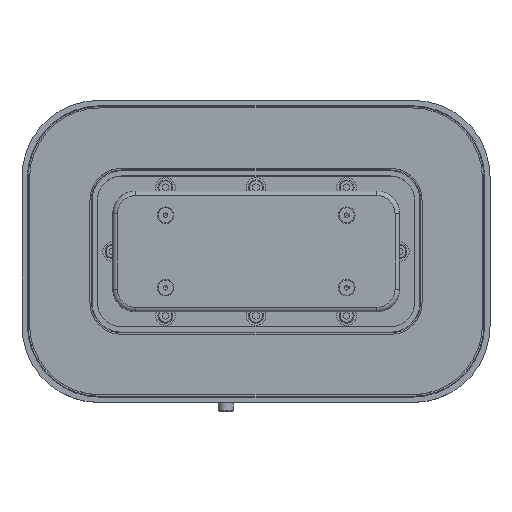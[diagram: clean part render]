
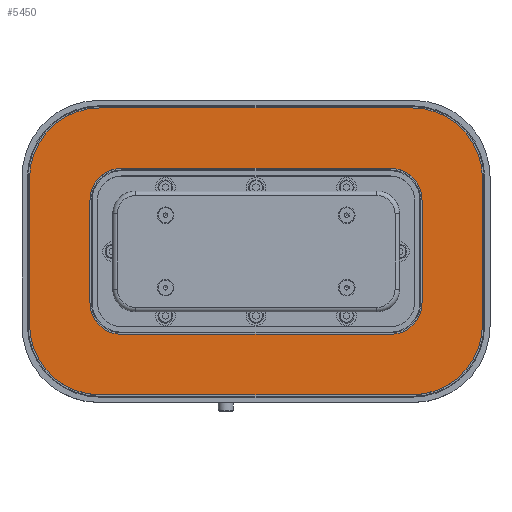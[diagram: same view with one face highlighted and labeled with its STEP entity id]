
A CAD part, top view. The second image highlights one B-rep face of the part: STEP entity #5450.
In plain terms, the highlighted planar face has unit normal (0, 0, 1).
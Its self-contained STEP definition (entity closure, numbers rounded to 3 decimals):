
#5450=ADVANCED_FACE('',(#10638,#10639),#10640,.T.);
#10638=FACE_OUTER_BOUND('',#16035,.T.);
#10639=FACE_BOUND('',#16036,.T.);
#10640=PLANE('',#16037);
#16035=EDGE_LOOP('',(#25600,#25601,#25602,#25603,#25604,#25605,#25606,#25607));
#16036=EDGE_LOOP('',(#25608,#25609,#25610,#25611,#25612,#25613,#25614,#25615));
#16037=AXIS2_PLACEMENT_3D('',#25616,#25617,#25618);
#25600=ORIENTED_EDGE('',*,*,#32235,.T.);
#25601=ORIENTED_EDGE('',*,*,#32230,.T.);
#25602=ORIENTED_EDGE('',*,*,#32236,.T.);
#25603=ORIENTED_EDGE('',*,*,#32220,.T.);
#25604=ORIENTED_EDGE('',*,*,#32237,.T.);
#25605=ORIENTED_EDGE('',*,*,#32225,.T.);
#25606=ORIENTED_EDGE('',*,*,#32238,.T.);
#25607=ORIENTED_EDGE('',*,*,#32239,.T.);
#25608=ORIENTED_EDGE('',*,*,#32240,.T.);
#25609=ORIENTED_EDGE('',*,*,#32241,.T.);
#25610=ORIENTED_EDGE('',*,*,#32242,.T.);
#25611=ORIENTED_EDGE('',*,*,#32243,.T.);
#25612=ORIENTED_EDGE('',*,*,#32244,.T.);
#25613=ORIENTED_EDGE('',*,*,#32245,.T.);
#25614=ORIENTED_EDGE('',*,*,#32246,.T.);
#25615=ORIENTED_EDGE('',*,*,#32247,.T.);
#25616=CARTESIAN_POINT('',(-196.164,-306.171,132.0));
#25617=DIRECTION('',(0.0,0.0,1.0));
#25618=DIRECTION('',(1.0,0.0,0.0));
#32220=EDGE_CURVE('',#37996,#37997,#37998,.T.);
#32225=EDGE_CURVE('',#38005,#38006,#38007,.T.);
#32230=EDGE_CURVE('',#38014,#38015,#38016,.T.);
#32235=EDGE_CURVE('',#38023,#38014,#38024,.T.);
#32236=EDGE_CURVE('',#38015,#37996,#38025,.T.);
#32237=EDGE_CURVE('',#37997,#38005,#38026,.T.);
#32238=EDGE_CURVE('',#38006,#38027,#38028,.T.);
#32239=EDGE_CURVE('',#38027,#38023,#38029,.T.);
#32240=EDGE_CURVE('',#38030,#38031,#38032,.T.);
#32241=EDGE_CURVE('',#38031,#38033,#38034,.F.);
#32242=EDGE_CURVE('',#38033,#38035,#38036,.T.);
#32243=EDGE_CURVE('',#38035,#38037,#38038,.F.);
#32244=EDGE_CURVE('',#38037,#38039,#38040,.T.);
#32245=EDGE_CURVE('',#38039,#38041,#38042,.F.);
#32246=EDGE_CURVE('',#38041,#38043,#38044,.T.);
#32247=EDGE_CURVE('',#38043,#38030,#38045,.F.);
#37996=VERTEX_POINT('',#46189);
#37997=VERTEX_POINT('',#46190);
#37998=CIRCLE('',#46191,46.5);
#38005=VERTEX_POINT('',#46200);
#38006=VERTEX_POINT('',#46201);
#38007=CIRCLE('',#46202,46.5);
#38014=VERTEX_POINT('',#46211);
#38015=VERTEX_POINT('',#46212);
#38016=CIRCLE('',#46213,46.5);
#38023=VERTEX_POINT('',#46222);
#38024=LINE('',#46223,#46224);
#38025=LINE('',#46225,#46226);
#38026=LINE('',#46227,#46228);
#38027=VERTEX_POINT('',#46229);
#38028=LINE('',#46230,#46231);
#38029=CIRCLE('',#46232,46.5);
#38030=VERTEX_POINT('',#46233);
#38031=VERTEX_POINT('',#46234);
#38032=LINE('',#46235,#46236);
#38033=VERTEX_POINT('',#46237);
#38034=CIRCLE('',#46238,21.0);
#38035=VERTEX_POINT('',#46239);
#38036=LINE('',#46240,#46241);
#38037=VERTEX_POINT('',#46242);
#38038=CIRCLE('',#46243,21.0);
#38039=VERTEX_POINT('',#46244);
#38040=LINE('',#46245,#46246);
#38041=VERTEX_POINT('',#46247);
#38042=CIRCLE('',#46248,21.0);
#38043=VERTEX_POINT('',#46249);
#38044=LINE('',#46250,#46251);
#38045=CIRCLE('',#46252,21.0);
#46189=CARTESIAN_POINT('',(57.336,-306.171,132.0));
#46190=CARTESIAN_POINT('',(103.836,-259.671,132.0));
#46191=AXIS2_PLACEMENT_3D('',#52237,#52238,#52239);
#46200=CARTESIAN_POINT('',(103.836,-162.671,132.0));
#46201=CARTESIAN_POINT('',(57.336,-116.171,132.0));
#46202=AXIS2_PLACEMENT_3D('',#52245,#52246,#52247);
#46211=CARTESIAN_POINT('',(-196.164,-259.671,132.0));
#46212=CARTESIAN_POINT('',(-149.664,-306.171,132.0));
#46213=AXIS2_PLACEMENT_3D('',#52253,#52254,#52255);
#46222=CARTESIAN_POINT('',(-196.164,-162.671,132.0));
#46223=CARTESIAN_POINT('',(-196.164,-116.171,132.0));
#46224=VECTOR('',#52261,1.0);
#46225=CARTESIAN_POINT('',(-196.164,-306.171,132.0));
#46226=VECTOR('',#52262,1.0);
#46227=CARTESIAN_POINT('',(103.836,-306.171,132.0));
#46228=VECTOR('',#52263,1.0);
#46229=CARTESIAN_POINT('',(-149.664,-116.171,132.0));
#46230=CARTESIAN_POINT('',(103.836,-116.171,132.0));
#46231=VECTOR('',#52264,1.0);
#46232=AXIS2_PLACEMENT_3D('',#52265,#52266,#52267);
#46233=CARTESIAN_POINT('',(63.836,-177.171,132.0));
#46234=CARTESIAN_POINT('',(63.836,-245.171,132.0));
#46235=CARTESIAN_POINT('',(63.836,-156.171,132.0));
#46236=VECTOR('',#52268,1.0);
#46237=CARTESIAN_POINT('',(42.836,-266.171,132.0));
#46238=AXIS2_PLACEMENT_3D('',#52269,#52270,#52271);
#46239=CARTESIAN_POINT('',(-135.164,-266.171,132.0));
#46240=CARTESIAN_POINT('',(63.836,-266.171,132.0));
#46241=VECTOR('',#52272,1.0);
#46242=CARTESIAN_POINT('',(-156.164,-245.171,132.0));
#46243=AXIS2_PLACEMENT_3D('',#52273,#52274,#52275);
#46244=CARTESIAN_POINT('',(-156.164,-177.171,132.0));
#46245=CARTESIAN_POINT('',(-156.164,-266.171,132.0));
#46246=VECTOR('',#52276,1.0);
#46247=CARTESIAN_POINT('',(-135.164,-156.171,132.0));
#46248=AXIS2_PLACEMENT_3D('',#52277,#52278,#52279);
#46249=CARTESIAN_POINT('',(42.836,-156.171,132.0));
#46250=CARTESIAN_POINT('',(-156.164,-156.171,132.0));
#46251=VECTOR('',#52280,1.0);
#46252=AXIS2_PLACEMENT_3D('',#52281,#52282,#52283);
#52237=CARTESIAN_POINT('',(57.336,-259.671,132.0));
#52238=DIRECTION('',(0.0,0.0,1.0));
#52239=DIRECTION('',(1.0,0.0,0.0));
#52245=CARTESIAN_POINT('',(57.336,-162.671,132.0));
#52246=DIRECTION('',(0.0,0.0,1.0));
#52247=DIRECTION('',(1.0,0.0,0.0));
#52253=CARTESIAN_POINT('',(-149.664,-259.671,132.0));
#52254=DIRECTION('',(0.0,0.0,1.0));
#52255=DIRECTION('',(1.0,0.0,0.0));
#52261=DIRECTION('',(0.0,-1.0,0.0));
#52262=DIRECTION('',(1.0,0.0,0.0));
#52263=DIRECTION('',(0.0,1.0,0.0));
#52264=DIRECTION('',(-1.0,0.0,0.0));
#52265=CARTESIAN_POINT('',(-149.664,-162.671,132.0));
#52266=DIRECTION('',(0.0,0.0,1.0));
#52267=DIRECTION('',(1.0,0.0,0.0));
#52268=DIRECTION('',(0.0,-1.0,0.0));
#52269=CARTESIAN_POINT('',(42.836,-245.171,132.0));
#52270=DIRECTION('',(0.0,0.0,1.0));
#52271=DIRECTION('',(1.0,0.0,0.0));
#52272=DIRECTION('',(-1.0,0.0,0.0));
#52273=CARTESIAN_POINT('',(-135.164,-245.171,132.0));
#52274=DIRECTION('',(0.0,0.0,1.0));
#52275=DIRECTION('',(1.0,0.0,0.0));
#52276=DIRECTION('',(0.0,1.0,0.0));
#52277=CARTESIAN_POINT('',(-135.164,-177.171,132.0));
#52278=DIRECTION('',(0.0,0.0,1.0));
#52279=DIRECTION('',(1.0,0.0,0.0));
#52280=DIRECTION('',(1.0,0.0,0.0));
#52281=CARTESIAN_POINT('',(42.836,-177.171,132.0));
#52282=DIRECTION('',(0.0,0.0,1.0));
#52283=DIRECTION('',(1.0,0.0,0.0));
